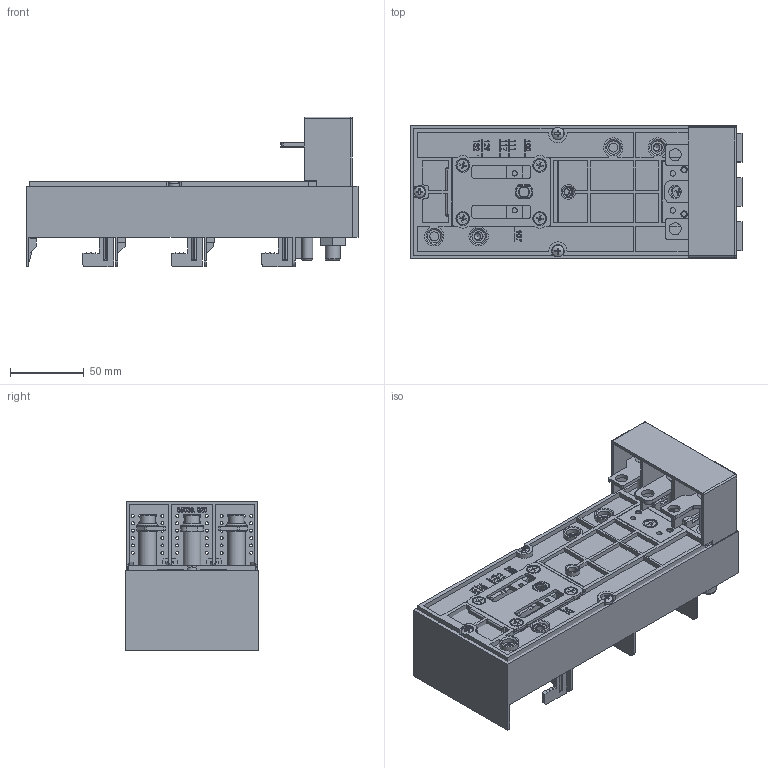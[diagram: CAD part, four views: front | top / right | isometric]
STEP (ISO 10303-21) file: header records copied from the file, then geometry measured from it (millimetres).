
FILE_DESCRIPTION (( 'STEP AP203' ), '1' );
FILE_NAME ('55069.STEP', '2021-08-24T01:00:18', ( '' ), ( '' ), 'SwSTEP 2.0', 'SolidWorks 2017', '' );
FILE_SCHEMA (( 'CONFIG_CONTROL_DESIGN' ));
Products named in the file (2): 55069
Bounding box: 224.5 x 90 x 101.3 mm (x, y, z)
Volume: 761651.1 mm3; surface area: 210858.7 mm2
Topology: 10 solids, 10 shells, 2414 faces, 6447 edges, 4199 vertices
Faces by surface type: plane 1591, cylinder 511, bspline 188, cone 97, torus 20, sphere 7
Full cylindrical faces by diameter (mm): 2 x90, 3.2 x4, 3.3 x2, 3.5 x2, 3.6 x2, 4 x10, 4.2 x3, 4.3 x4, 4.5 x1, 6 x8, 6.5 x1, 7 x3, 7.5 x1, 8 x13, 8.2 x2, 8.5 x1, 9 x9, 10 x7, 11 x4, 12 x3, 13 x1, 13.891 x2, 15 x3
Entity records: 95726 total; most frequent: CARTESIAN_POINT 36768, ORIENTED_EDGE 12254, DIRECTION 11261, EDGE_CURVE 6127, VECTOR 4531, LINE 4531, VERTEX_POINT 4148, AXIS2_PLACEMENT_3D 3365
